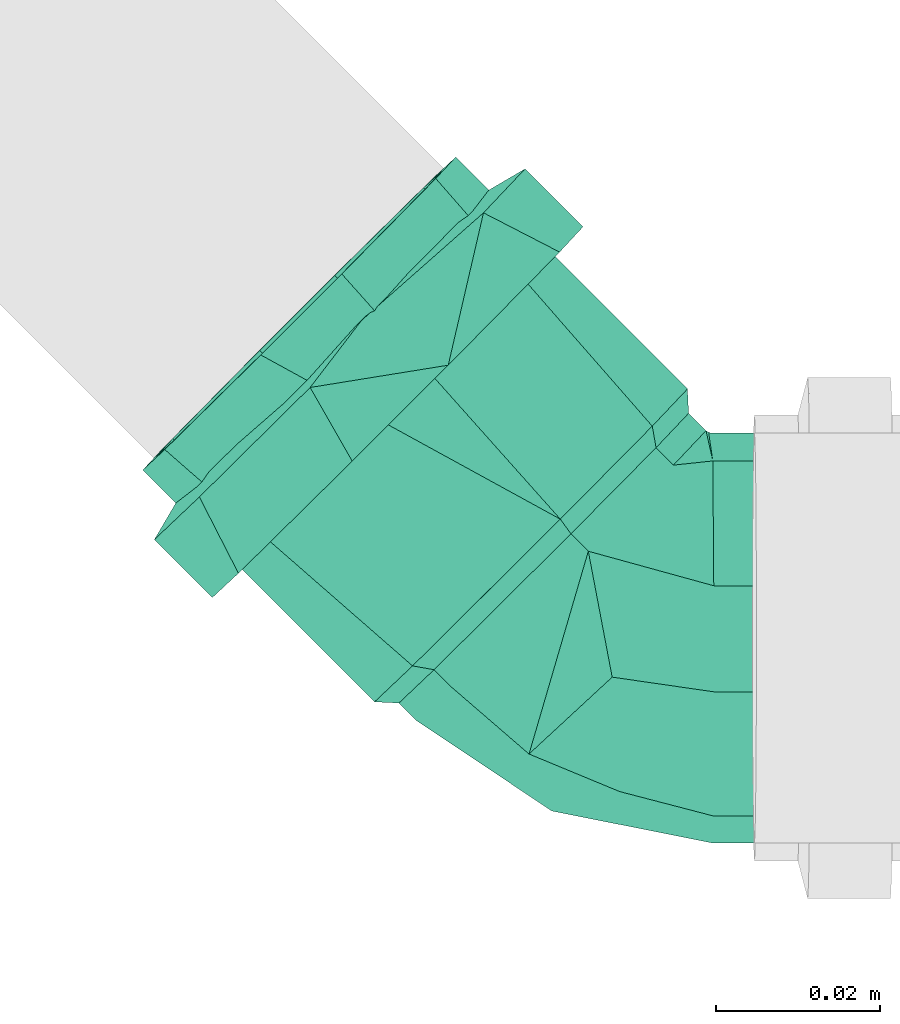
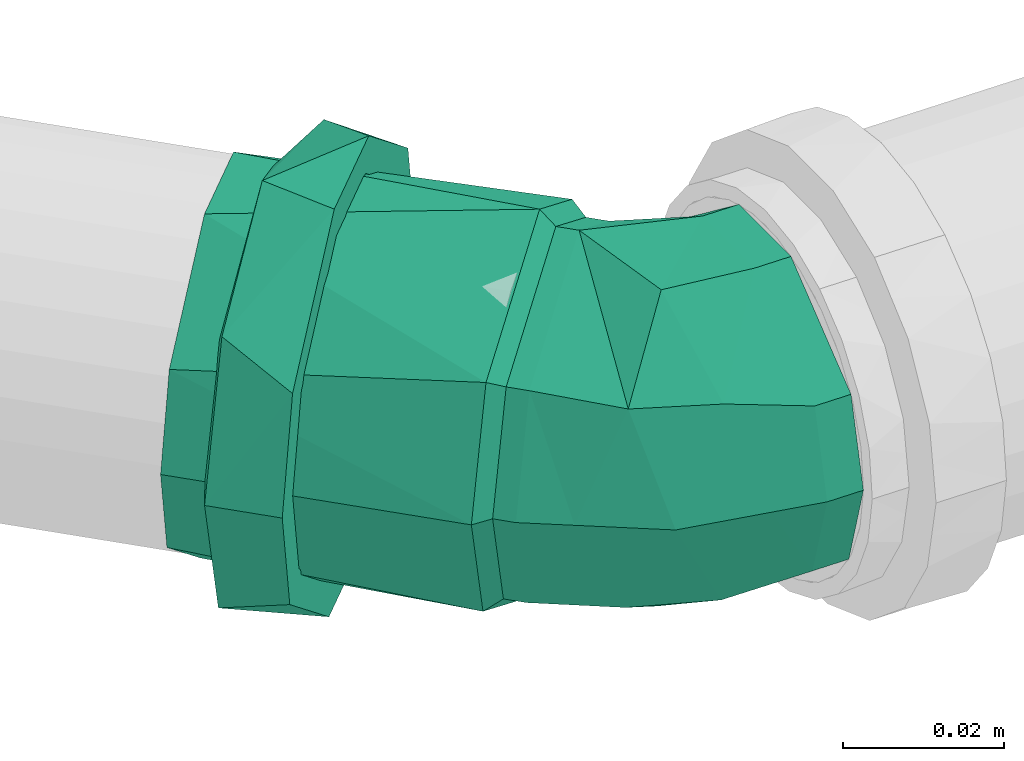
# One storey, part 282 of 589: 1 flow fitting.
"""IFC2X3 building model written with IfcOpenShell, lengths in millimetres."""

from ifc_helpers import new_model, entity, si_unit, converted_unit, derived_unit, direction, frame, origin, place, context, subcontext, project, spatial, faceted_brep, source, transform, mapped, material, type_object, type_shapes, element, save


model = new_model("IFC2X3")

# Units and contexts
model_context = context("Model", 3, precision=0.01, world=origin(), true_north=direction((6.123031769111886e-17, 1.0)))
body_context = subcontext(model_context, "Body", "Model", "MODEL_VIEW")
ifc_project = project(units=[si_unit("LENGTHUNIT", "METRE", prefix="MILLI"), si_unit("AREAUNIT", "SQUARE_METRE"), si_unit("VOLUMEUNIT", "CUBIC_METRE"), converted_unit("PLANEANGLEUNIT", "DEGREE", entity("IfcRatioMeasure", 0.017453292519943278), si_unit("PLANEANGLEUNIT", "RADIAN"), dimensions=[0, 0, 0, 0, 0, 0, 0]), si_unit("MASSUNIT", "GRAM", prefix="KILO"), derived_unit("MASSDENSITYUNIT", [(si_unit("MASSUNIT", "GRAM", prefix="KILO"), 1), (si_unit("LENGTHUNIT", "METRE"), -3)]), derived_unit("IONCONCENTRATIONUNIT", [(si_unit("MASSUNIT", "GRAM", prefix="KILO"), 1), (si_unit("LENGTHUNIT", "METRE"), -3)]), derived_unit("MOMENTOFINERTIAUNIT", [(si_unit("LENGTHUNIT", "METRE"), 4)]), si_unit("TIMEUNIT", "SECOND"), si_unit("FREQUENCYUNIT", "HERTZ"), si_unit("THERMODYNAMICTEMPERATUREUNIT", "DEGREE_CELSIUS"), derived_unit("THERMALTRANSMITTANCEUNIT", [(si_unit("MASSUNIT", "GRAM", prefix="KILO"), 1), (si_unit("THERMODYNAMICTEMPERATUREUNIT", "KELVIN"), -1), (si_unit("TIMEUNIT", "SECOND"), -3)]), derived_unit("THERMALCONDUCTANCEUNIT", [(si_unit("MASSUNIT", "GRAM", prefix="KILO"), 1), (si_unit("THERMODYNAMICTEMPERATUREUNIT", "KELVIN"), -1), (si_unit("TIMEUNIT", "SECOND"), -3), (si_unit("LENGTHUNIT", "METRE"), 1)]), derived_unit("VOLUMETRICFLOWRATEUNIT", [(si_unit("LENGTHUNIT", "METRE"), 3), (si_unit("TIMEUNIT", "SECOND"), -1)]), derived_unit("MASSFLOWRATEUNIT", [(si_unit("MASSUNIT", "GRAM", prefix="KILO"), 1), (si_unit("TIMEUNIT", "SECOND"), -1)]), derived_unit("ROTATIONALFREQUENCYUNIT", [(si_unit("TIMEUNIT", "SECOND"), -1)]), si_unit("ELECTRICCURRENTUNIT", "AMPERE"), si_unit("ELECTRICVOLTAGEUNIT", "VOLT"), si_unit("POWERUNIT", "WATT"), si_unit("FORCEUNIT", "NEWTON", prefix="KILO"), si_unit("ILLUMINANCEUNIT", "LUX"), si_unit("LUMINOUSFLUXUNIT", "LUMEN"), si_unit("LUMINOUSINTENSITYUNIT", "CANDELA"), derived_unit("USERDEFINED", [(si_unit("MASSUNIT", "GRAM", prefix="KILO"), -1), (si_unit("LENGTHUNIT", "METRE"), -2), (si_unit("TIMEUNIT", "SECOND"), 3), (si_unit("LUMINOUSFLUXUNIT", "LUMEN"), 1)]), derived_unit("USERDEFINED", [(si_unit("MASSUNIT", "GRAM", prefix="KILO"), 1), (si_unit("TIMEUNIT", "SECOND"), -3), (si_unit("LENGTHUNIT", "METRE"), 3), (si_unit("ELECTRICCURRENTUNIT", "AMPERE"), -2)]), derived_unit("SOUNDPOWERUNIT", [(si_unit("MASSUNIT", "GRAM", prefix="KILO"), 1), (si_unit("TIMEUNIT", "SECOND"), -3), (si_unit("LENGTHUNIT", "METRE"), 2)]), derived_unit("SOUNDPRESSUREUNIT", [(si_unit("MASSUNIT", "GRAM", prefix="KILO"), 1), (si_unit("LENGTHUNIT", "METRE"), -1), (si_unit("TIMEUNIT", "SECOND"), -2)]), derived_unit("LINEARVELOCITYUNIT", [(si_unit("LENGTHUNIT", "METRE"), 1), (si_unit("TIMEUNIT", "SECOND"), -1)]), si_unit("PRESSUREUNIT", "PASCAL"), derived_unit("USERDEFINED", [(si_unit("MASSUNIT", "GRAM", prefix="KILO"), 1), (si_unit("LENGTHUNIT", "METRE"), -2), (si_unit("TIMEUNIT", "SECOND"), -2)]), derived_unit("LINEARFORCEUNIT", [(si_unit("MASSUNIT", "GRAM", prefix="KILO"), 1), (si_unit("TIMEUNIT", "SECOND"), -2)]), derived_unit("PLANARFORCEUNIT", [(si_unit("MASSUNIT", "GRAM", prefix="KILO"), 1), (si_unit("LENGTHUNIT", "METRE"), -1), (si_unit("TIMEUNIT", "SECOND"), -2)]), derived_unit("SPECIFICHEATCAPACITYUNIT", [(si_unit("THERMODYNAMICTEMPERATUREUNIT", "KELVIN"), -1), (si_unit("LENGTHUNIT", "METRE"), 2), (si_unit("TIMEUNIT", "SECOND"), -2)]), derived_unit("HEATINGVALUEUNIT", [(si_unit("LENGTHUNIT", "METRE"), 2), (si_unit("TIMEUNIT", "SECOND"), -2)]), derived_unit("VAPORPERMEABILITYUNIT", [(si_unit("LENGTHUNIT", "METRE"), -1), (si_unit("TIMEUNIT", "SECOND"), 1)]), derived_unit("DYNAMICVISCOSITYUNIT", [(si_unit("MASSUNIT", "GRAM", prefix="KILO"), 1), (si_unit("TIMEUNIT", "SECOND"), -1), (si_unit("LENGTHUNIT", "METRE"), -1)]), derived_unit("THERMALEXPANSIONCOEFFICIENTUNIT", [(si_unit("THERMODYNAMICTEMPERATUREUNIT", "KELVIN"), -1)]), derived_unit("MODULUSOFELASTICITYUNIT", [(si_unit("MASSUNIT", "GRAM", prefix="KILO"), 1), (si_unit("LENGTHUNIT", "METRE"), -1), (si_unit("TIMEUNIT", "SECOND"), -2)]), derived_unit("ISOTHERMALMOISTURECAPACITYUNIT", [(si_unit("LENGTHUNIT", "METRE"), 3), (si_unit("MASSUNIT", "GRAM", prefix="KILO"), -1)]), derived_unit("MOISTUREDIFFUSIVITYUNIT", [(si_unit("TIMEUNIT", "SECOND"), -1), (si_unit("LENGTHUNIT", "METRE"), 2)])], contexts=[model_context])

# Site, building, storey
site_placement = place(None, origin())
site = spatial("IfcSite", under=ifc_project, at=site_placement, Name="Default", CompositionType="ELEMENT")
building_placement = place(site_placement, origin())
building = spatial("IfcBuilding", under=site, at=building_placement, CompositionType="ELEMENT")
storey_placement = place(building_placement, frame((0.0, 0.0, 100.0)))
storey = spatial("IfcBuildingStorey", under=building, at=storey_placement, Name="TÉRREO", CompositionType="ELEMENT", Elevation=100.0)

# Flow fitting
ifc_material = material(Name="PVC Série Normal")
pipe_fitting_type = type_object("IfcPipeFittingType", Name="PVC Esgoto_Joelho 45_90_Rodrigo MEP:a. Série Normal", PredefinedType="NOTDEFINED", material=ifc_material)
shared_shape = source(origin(), body_context, "Body", "Brep", [
    faceted_brep([(22.923769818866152, -7.695482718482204, -12.500000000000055), (25.29203036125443, -10.063939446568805, 0.0), (22.923769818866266, -7.69548271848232, 12.499999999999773), (12.190221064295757, 3.0389551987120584, 24.148145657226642), (3.039964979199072, 12.189969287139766, 24.14814565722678), (-7.693583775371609, 22.92440720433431, 12.500000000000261), (-10.061844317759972, 25.292863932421, 0.0), (-7.6935837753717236, 22.92440720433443, -12.499999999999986), (3.039964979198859, 12.18996928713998, -24.1481456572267), (12.19022106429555, 3.0389551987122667, -24.14814565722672), (26.600877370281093, -4.0186797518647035, -12.500000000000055), (15.86732861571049, 6.715758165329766, -24.14814565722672), (6.717072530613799, 15.86677225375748, -24.1481456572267), (-4.016476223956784, 26.60121017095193, -12.499999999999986), (-6.3847367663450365, 28.9696668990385, 0.0), (-4.016476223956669, 26.601210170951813, 12.500000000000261), (6.717072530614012, 15.866772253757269, 24.14814565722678), (15.867328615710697, 6.715758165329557, 24.148145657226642), (26.60087737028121, -4.018679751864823, 12.499999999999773), (28.969137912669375, -6.387136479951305, 0.0)], [[[0, 1, 2, 3, 4, 5, 6, 7, 8, 9]], [[10, 11, 12, 13, 14, 15, 16, 17, 18, 19]], [[1, 19, 18, 2]], [[2, 18, 17, 3]], [[17, 16, 4, 3]], [[4, 16, 15, 5]], [[5, 15, 14, 6]], [[6, 14, 13, 7]], [[7, 13, 12, 8]], [[12, 11, 9, 8]], [[9, 11, 10, 0]], [[0, 10, 19, 1]]]),
    faceted_brep([(-55.96892181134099, -6.988114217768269, -26.07999730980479), (-55.96892181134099, -6.47047612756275, -24.14814565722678), (-55.96892181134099, 6.4704761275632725, -24.148145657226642), (-55.96892181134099, -23.382685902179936, -13.499999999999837), (-55.96892181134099, 6.988114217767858, -26.0799973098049), (-55.96892181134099, -21.650635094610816, -12.500000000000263), (-55.96892181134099, -25.0, 0.0), (-55.96892181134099, -27.0, 0.0), (-55.96892181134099, -21.650635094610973, 12.499999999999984), (-55.96892181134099, -23.382685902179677, 13.500000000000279), (-55.96892181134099, -6.470476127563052, 24.1481456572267), (-55.96892181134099, -6.98811421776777, 26.079997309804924), (-55.96892181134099, 6.470476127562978, 24.14814565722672), (-55.96892181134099, 6.988114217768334, 26.07999730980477), (-55.96892181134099, 21.650635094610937, 12.500000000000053), (-55.96892181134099, 23.38268590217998, 13.499999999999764), (-55.96892181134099, 27.0, 0.0), (-55.96892181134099, 25.0, 0.0), (-55.96892181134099, 23.382685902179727, -13.500000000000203), (-55.96892181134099, 21.6506350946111, -12.499999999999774), (-15.968921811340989, 21.650635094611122, -12.499999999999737), (-15.968921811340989, 25.0, 0.0), (-15.968921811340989, 6.4704761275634, -24.148145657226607), (-15.968921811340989, -6.470476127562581, -24.148145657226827), (-15.968921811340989, -21.650635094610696, -12.500000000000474), (-15.968921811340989, -25.0, 0.0), (-15.968921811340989, -21.65063509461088, 12.500000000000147), (-15.968921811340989, -6.470476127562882, 24.14814565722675), (-15.968921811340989, 6.470476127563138, 24.148145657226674), (-15.968921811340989, 21.650635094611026, 12.499999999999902), (-15.968921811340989, 27.0, 0.0), (-15.968921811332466, 20.682232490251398, 17.35641838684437), (-15.96892181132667, 4.685536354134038, 26.59033187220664), (-15.96892181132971, -20.686585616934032, 17.35122979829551), (-15.968921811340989, -27.0, 0.0), (-15.968921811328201, -8.000524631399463, 21.970780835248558), (-15.968921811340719, -20.686585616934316, -17.35122979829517), (-15.968921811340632, -4.6922062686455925, -26.589155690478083), (-15.96892181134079, 20.682232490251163, -17.356418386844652), (-15.968921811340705, 7.995013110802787, -21.972787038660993), (-13.768921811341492, -4.338459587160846, -24.620677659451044), (-13.76892181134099, 25.0, 0.0), (-13.7689218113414, 19.15424594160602, -16.065953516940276), (-13.768921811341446, 7.407893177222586, -20.343315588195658), (-13.768921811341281, -19.15021526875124, -16.070757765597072), (-13.768921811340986, -25.0, 0.0), (-13.768921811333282, -19.150215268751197, 16.07075776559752), (-13.768921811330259, -7.402789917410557, 20.34517318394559), (-13.768921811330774, 19.15424594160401, 16.065953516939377), (-13.768921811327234, 4.344635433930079, 24.61958860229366), (-10.768921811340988, 25.0, 0.0), (-10.76892181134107, 19.151286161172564, 16.069481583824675), (-10.76892181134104, 4.341396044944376, 24.62016003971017), (-10.768921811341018, -7.404832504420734, 20.344954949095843), (-10.768921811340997, -19.15106105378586, 16.069749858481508), (-10.768921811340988, -25.0, 0.0), (-10.768921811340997, -19.15106105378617, -16.069749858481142), (-10.768921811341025, -4.341051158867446, -24.62022085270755), (-10.76892181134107, 19.15128616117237, -16.069481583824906), (-10.768921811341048, 7.405117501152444, -20.344851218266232), (22.923769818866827, -7.695482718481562, -12.500000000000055), (12.190221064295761, 3.0389551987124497, -24.14814565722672), (3.039964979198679, 12.189969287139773, -24.1481456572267), (-7.69358377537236, 22.92440720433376, -12.499999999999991), (-10.06184431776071, 25.292863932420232, 0.0), (-7.6935837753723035, 22.924407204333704, 12.500000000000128), (3.039964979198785, 12.189969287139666, 24.14814565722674), (12.190221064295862, 3.038955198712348, 24.148145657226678), (22.923769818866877, -7.695482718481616, 12.499999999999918), (25.292030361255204, -10.063939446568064, 0.0), (1.706595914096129, -18.231014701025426, 15.057518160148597), (8.746957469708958, -21.11826032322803, 0.0), (12.769673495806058, -13.64882588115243, 14.852748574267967), (-3.605445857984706, -23.575173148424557, 0.0), (2.158889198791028, -4.458964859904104, 23.973885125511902), (-10.386257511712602, 25.076112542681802, 0.0), (19.219015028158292, -14.121525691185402, 0.0), (12.766185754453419, -13.645844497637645, -14.858628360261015), (2.121363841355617, -4.513538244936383, -23.96332319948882), (1.7564188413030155, -18.24350473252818, -15.023571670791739)], [[[0, 1, 2]], [[1, 0, 3]], [[2, 4, 0]], [[3, 5, 1]], [[3, 6, 5]], [[6, 3, 7]], [[8, 6, 7]], [[8, 7, 9]], [[9, 10, 8]], [[9, 11, 10]], [[10, 11, 12]], [[13, 12, 11]], [[13, 14, 12]], [[14, 13, 15]], [[16, 14, 15]], [[17, 14, 16]], [[18, 17, 16]], [[18, 19, 17]], [[19, 18, 4]], [[4, 2, 19]], [[20, 21, 17, 19]], [[22, 20, 19, 2]], [[2, 1, 23, 22]], [[24, 23, 1, 5]], [[25, 24, 5, 6]], [[26, 25, 6, 8]], [[27, 26, 8, 10]], [[10, 12, 28, 27]], [[29, 28, 12, 14]], [[21, 29, 14, 17]], [[16, 15, 30]], [[15, 31, 30]], [[31, 15, 13]], [[31, 13, 32]], [[33, 11, 9]], [[34, 9, 7]], [[11, 33, 35, 32]], [[33, 9, 34]], [[11, 32, 13]], [[7, 3, 34]], [[3, 36, 34]], [[36, 3, 0]], [[36, 0, 37]], [[38, 4, 18]], [[30, 18, 16]], [[4, 38, 39, 37]], [[38, 18, 30]], [[4, 37, 0]], [[28, 29, 21, 20, 22, 23, 24, 25, 26, 27]], [[39, 40, 37]], [[41, 42, 30]], [[30, 42, 38]], [[38, 43, 39]], [[44, 45, 36]], [[38, 42, 43]], [[36, 37, 44]], [[34, 36, 45]], [[40, 39, 43]], [[44, 37, 40]], [[45, 46, 33]], [[33, 34, 45]], [[46, 35, 33]], [[46, 47, 35]], [[47, 32, 35]], [[48, 41, 30]], [[48, 31, 49]], [[31, 48, 30]], [[32, 47, 49]], [[49, 31, 32]], [[41, 48, 50]], [[48, 51, 50]], [[51, 48, 49]], [[51, 49, 52]], [[52, 47, 53]], [[46, 54, 53]], [[46, 45, 54]], [[49, 47, 52]], [[54, 45, 55]], [[47, 46, 53]], [[45, 44, 56]], [[45, 56, 55]], [[56, 44, 57]], [[58, 59, 43]], [[44, 40, 57]], [[40, 59, 57]], [[58, 43, 42]], [[42, 50, 58]], [[50, 42, 41]], [[59, 40, 43]], [[60, 61, 62, 63, 64, 65, 66, 67, 68, 69]], [[51, 52, 66]], [[70, 71, 72]], [[54, 55, 73]], [[70, 72, 74]], [[50, 65, 75]], [[51, 65, 50]], [[52, 70, 74]], [[76, 69, 68]], [[71, 70, 73]], [[72, 76, 68]], [[73, 70, 54]], [[76, 72, 71]], [[67, 72, 68]], [[75, 65, 64]], [[70, 52, 53, 54]], [[52, 74, 66]], [[66, 65, 51]], [[67, 74, 72]], [[67, 66, 74]], [[60, 76, 77]], [[73, 55, 56]], [[78, 58, 62]], [[78, 57, 59, 58]], [[79, 73, 56]], [[57, 78, 79]], [[61, 77, 78]], [[58, 50, 63]], [[75, 64, 63]], [[57, 79, 56]], [[60, 69, 76]], [[63, 62, 58]], [[79, 78, 77]], [[61, 60, 77]], [[76, 71, 77]], [[73, 79, 71]], [[79, 77, 71]], [[62, 61, 78]], [[63, 50, 75]]]),
    faceted_brep([(-38.96892181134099, 6.9881142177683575, -26.07999730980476), (-38.96892181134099, -6.988114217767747, -26.079997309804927), (-38.96892181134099, -8.282209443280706, -30.909626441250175), (-38.96892181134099, 8.28220944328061, -30.9096264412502), (-38.96892181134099, 23.38268590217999, -13.499999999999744), (-38.96892181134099, -27.712812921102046, -16.0), (-38.96892181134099, -23.38268590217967, -13.500000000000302), (-38.96892181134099, -27.0, 0.0), (-38.96892181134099, -32.0, 0.0), (-38.96892181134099, -23.382685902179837, 13.500000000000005), (-38.96892181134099, -27.712812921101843, 16.0), (-38.96892181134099, -6.988114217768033, 26.07999730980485), (-38.96892181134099, -8.28220944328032, 30.909626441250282), (-38.96892181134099, 6.988114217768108, 26.07999730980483), (-38.96892181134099, 8.282209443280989, 30.909626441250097), (-38.96892181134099, 23.382685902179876, 13.499999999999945), (-38.96892181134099, 27.712812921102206, 16.0), (-38.96892181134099, 32.0, 0.0), (-38.96892181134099, 27.0, 0.0), (-38.96892181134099, 27.712812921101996, -16.0), (-48.96892181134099, 27.0, 0.0), (-50.26892181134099, 27.0, 0.0), (-48.96892181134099, 25.191342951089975, -6.750000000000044), (-48.96892181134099, 23.38268590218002, -13.499999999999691), (-48.96892181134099, 19.284042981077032, -16.644999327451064), (-48.96892181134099, 15.185400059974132, -19.789998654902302), (-48.96892181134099, 11.086757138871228, -22.934997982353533), (-48.96892181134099, 6.988114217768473, -26.07999730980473), (-48.96892181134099, 0.0, -26.079997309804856), (-48.96892181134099, -6.988114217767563, -26.079997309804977), (-48.96892181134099, -11.086757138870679, -22.934997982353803), (-48.96892181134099, -15.185400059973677, -19.789998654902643), (-48.96892181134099, -19.284042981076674, -16.644999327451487), (-48.96892181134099, -23.382685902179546, -13.50000000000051), (-48.96892181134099, -25.191342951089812, -6.750000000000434), (-50.26892181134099, -27.0, 0.0), (-48.96892181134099, -27.0, 0.0), (-48.96892181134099, -25.19134295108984, 6.750000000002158), (-48.96892181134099, -23.382685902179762, 13.500000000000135), (-48.96892181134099, -19.284042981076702, 16.64499932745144), (-48.96892181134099, -15.185400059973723, 19.7899986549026), (-48.96892181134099, -11.086757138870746, 22.934997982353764), (-48.96892181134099, -6.988114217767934, 26.079997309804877), (-48.96892181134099, 0.0, 26.079997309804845), (-48.96892181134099, 6.988114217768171, 26.079997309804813), (-48.96892181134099, 11.086757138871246, 22.93499798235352), (-48.96892181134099, 15.185400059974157, 19.789998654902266), (-48.96892181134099, 19.284042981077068, 16.644999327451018), (-48.96892181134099, 23.382685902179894, 13.499999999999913), (-48.96892181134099, 25.19134295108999, 6.74999999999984), (-48.96892181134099, 32.0, 0.0), (-48.96892181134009, 24.512275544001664, 20.570569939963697), (-48.96892181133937, -5.561133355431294, 31.51307341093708), (-48.96892181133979, -24.51743480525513, 20.56442050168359), (-48.96892181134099, -32.0, 0.0), (-48.96892181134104, -24.51743480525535, -20.564420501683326), (-48.968921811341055, 5.553228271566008, -31.514467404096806), (-48.968921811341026, 24.512275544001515, -20.570569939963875), (-50.26892181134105, -23.84329280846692, -8.675614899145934), (-50.26892181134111, -20.686585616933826, -17.351229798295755), (-50.26892181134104, 23.841116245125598, -8.678209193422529), (-50.26892181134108, 20.6822324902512, -17.356418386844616), (-50.26892181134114, -12.689395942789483, -21.970192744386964), (-50.26892181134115, -4.692206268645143, -26.589155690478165), (-50.268921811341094, 14.338622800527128, -19.664602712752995), (-50.26892181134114, 1.6514034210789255, -24.280971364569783), (-50.26892181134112, 7.995013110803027, -21.97278703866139), (-50.26892181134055, 23.84111624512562, 8.678209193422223), (-50.2689218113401, 20.68223249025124, 17.35641838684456), (-50.26892181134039, -23.843292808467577, 8.675614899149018), (-50.26892181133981, -20.686585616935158, 17.351229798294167), (-50.2689218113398, 12.683884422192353, 21.973375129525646), (-50.268921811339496, 4.685536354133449, 26.590331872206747), (-50.26892181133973, -14.343555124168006, 19.66100531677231), (-50.268921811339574, -1.6574941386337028, 24.2805563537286), (-50.268921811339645, -8.000524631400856, 21.97078083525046)], [[[0, 1, 2]], [[2, 3, 0]], [[4, 0, 3]], [[5, 2, 1]], [[1, 6, 5]], [[6, 7, 5]], [[8, 5, 7]], [[8, 7, 9]], [[10, 8, 9]], [[9, 11, 10]], [[11, 12, 10]], [[13, 12, 11]], [[12, 13, 14]], [[13, 15, 14]], [[16, 14, 15]], [[16, 15, 17]], [[17, 15, 18]], [[18, 4, 19]], [[17, 18, 19]], [[3, 19, 4]], [[4, 18, 20, 21, 22, 23]], [[0, 4, 23, 24, 25, 26, 27]], [[0, 27, 28, 29, 1]], [[6, 1, 29, 30, 31, 32, 33]], [[7, 6, 33, 34, 35, 36]], [[9, 7, 36, 35, 37, 38]], [[11, 9, 38, 39, 40, 41, 42]], [[11, 42, 43, 44, 13]], [[15, 13, 44, 45, 46, 47, 48]], [[18, 15, 48, 49, 21, 20]], [[50, 51, 16]], [[50, 16, 17]], [[16, 51, 14]], [[51, 52, 14]], [[12, 52, 53]], [[10, 53, 54]], [[53, 10, 12]], [[10, 54, 8]], [[52, 12, 14]], [[54, 55, 5]], [[54, 5, 8]], [[5, 55, 2]], [[55, 56, 2]], [[3, 56, 57]], [[19, 57, 50]], [[57, 19, 3]], [[19, 50, 17]], [[56, 3, 2]], [[58, 33, 59]], [[23, 60, 61]], [[32, 31, 59, 33]], [[30, 29, 62, 31]], [[24, 23, 61, 25]], [[29, 28, 63]], [[26, 25, 64]], [[65, 63, 28]], [[31, 62, 59]], [[63, 62, 29]], [[60, 22, 21]], [[34, 58, 35]], [[66, 26, 64]], [[28, 27, 65]], [[27, 66, 65]], [[27, 26, 66]], [[64, 25, 61]], [[34, 33, 58]], [[60, 23, 22]], [[67, 48, 68]], [[38, 69, 70]], [[47, 46, 68, 48]], [[45, 44, 71, 46]], [[39, 38, 70, 40]], [[44, 43, 72]], [[41, 40, 73]], [[74, 72, 43]], [[46, 71, 68]], [[72, 71, 44]], [[69, 37, 35]], [[49, 67, 21]], [[75, 41, 73]], [[43, 42, 74]], [[42, 75, 74]], [[42, 41, 75]], [[73, 40, 70]], [[49, 48, 67]], [[69, 38, 37]], [[54, 35, 58, 59, 55]], [[55, 59, 62, 63]], [[55, 63, 56]], [[57, 61, 60, 21, 50]], [[57, 56, 61]], [[56, 63, 65, 66, 64, 61]], [[50, 21, 67, 68, 51]], [[51, 68, 71, 72]], [[51, 72, 52]], [[53, 70, 69, 35, 54]], [[53, 52, 70]], [[52, 72, 74, 75, 73, 70]]]),
])
type_shapes(pipe_fitting_type, [shared_shape])
flow_fitting_placement = place(storey_placement, frame((5957.7723483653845, 6698.647194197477, -239.85258734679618), z_axis=(0.009999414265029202, -0.0041418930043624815, 0.9999414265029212), x_axis=(0.7070714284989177, -0.7070714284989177, -0.009999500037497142)))
element("IfcFlowFitting", 1, at=flow_fitting_placement, inside=storey, type_object=pipe_fitting_type, material=ifc_material, Name="PVC Esgoto_Joelho 45_90_Rodrigo MEP:a. Série Normal", ObjectType="PVC Esgoto_Joelho 45_90_Rodrigo MEP:a. Série Normal", context=body_context, shape_type="MappedRepresentation", body=[
    mapped(shared_shape, transform((0.0, 0.0, 0.0), scale=1.0)),
])

save(model, "model.ifc")
